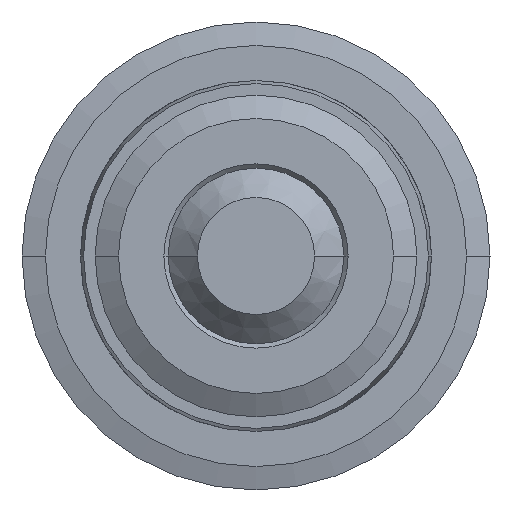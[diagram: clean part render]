
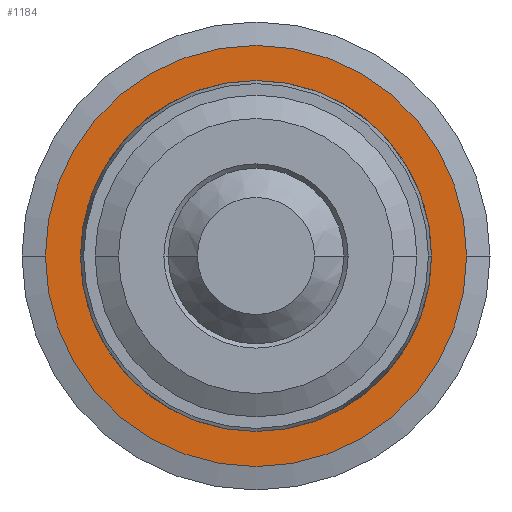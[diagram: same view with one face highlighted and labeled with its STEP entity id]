
A CAD part, left-side view. The second image highlights one B-rep face of the part: STEP entity #1184.
In plain terms, the highlighted planar face has unit normal (-1, 0, 0).
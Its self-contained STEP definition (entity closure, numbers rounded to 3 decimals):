
#72=CARTESIAN_POINT('',(-20.7,0.,0.));
#73=DIRECTION('',(-1.,0.,0.));
#74=DIRECTION('',(0.,1.,0.));
#75=AXIS2_PLACEMENT_3D('',#72,#73,#74);
#81=CARTESIAN_POINT('',(-20.7,0.,0.));
#82=DIRECTION('',(-1.,0.,0.));
#83=DIRECTION('',(0.,-1.,0.));
#84=AXIS2_PLACEMENT_3D('',#81,#82,#83);
#455=CARTESIAN_POINT('',(-20.7,0.,0.));
#456=DIRECTION('',(1.,0.,0.));
#457=DIRECTION('',(0.,1.,0.));
#458=AXIS2_PLACEMENT_3D('',#455,#456,#457);
#477=CARTESIAN_POINT('',(-20.7,0.,0.));
#478=DIRECTION('',(-1.,0.,0.));
#479=DIRECTION('',(0.,1.,0.));
#480=AXIS2_PLACEMENT_3D('',#477,#478,#479);
#1015=CARTESIAN_POINT('',(-20.7,3.,0.));
#1017=VERTEX_POINT('',#1015);
#1019=CARTESIAN_POINT('',(-20.7,-3.,0.));
#1021=VERTEX_POINT('',#1019);
#1067=CARTESIAN_POINT('',(-20.7,3.6,0.));
#1068=CARTESIAN_POINT('',(-20.7,-3.6,0.));
#1069=VERTEX_POINT('',#1067);
#1070=VERTEX_POINT('',#1068);
#1167=CARTESIAN_POINT('',(-20.7,0.,0.));
#1168=DIRECTION('',(1.,0.,0.));
#1169=DIRECTION('',(0.,-1.,0.));
#1170=AXIS2_PLACEMENT_3D('',#1167,#1168,#1169);
#1171=PLANE('',#1170);
#1173=ORIENTED_EDGE('',*,*,#1172,.F.);
#1175=ORIENTED_EDGE('',*,*,#1174,.F.);
#1176=EDGE_LOOP('',(#1173,#1175));
#1177=FACE_OUTER_BOUND('',#1176,.F.);
#1179=ORIENTED_EDGE('',*,*,#1178,.F.);
#1181=ORIENTED_EDGE('',*,*,#1180,.T.);
#1182=EDGE_LOOP('',(#1179,#1181));
#1183=FACE_BOUND('',#1182,.F.);
#1184=ADVANCED_FACE('',(#1177,#1183),#1171,.F.);
#76=CIRCLE('',#75,3.6);
#85=CIRCLE('',#84,3.6);
#459=CIRCLE('',#458,3.);
#481=CIRCLE('',#480,3.);
#1172=EDGE_CURVE('',#1069,#1070,#76,.T.);
#1174=EDGE_CURVE('',#1070,#1069,#85,.T.);
#1178=EDGE_CURVE('',#1017,#1021,#459,.T.);
#1180=EDGE_CURVE('',#1017,#1021,#481,.T.);
